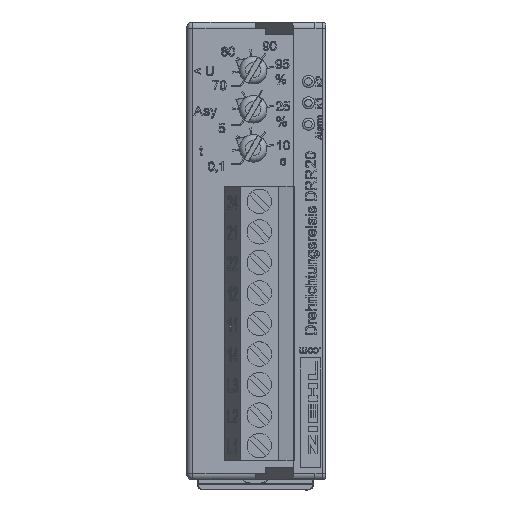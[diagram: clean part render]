
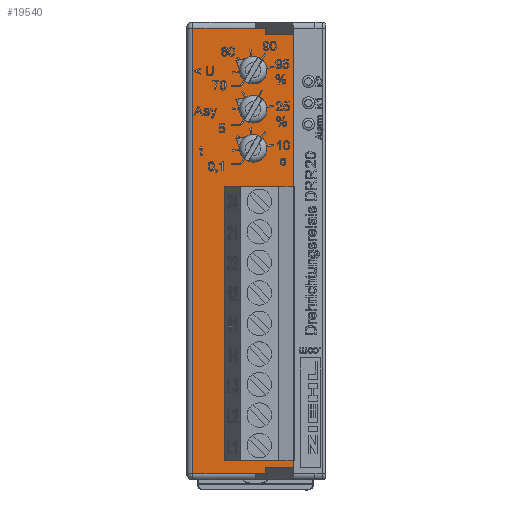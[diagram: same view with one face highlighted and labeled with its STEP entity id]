
A CAD part, left-side view. The second image highlights one B-rep face of the part: STEP entity #19540.
In plain terms, the highlighted planar face has unit normal (-1, 0, 0) as drawn and (1, 0, 0) by its records, which use the part's own axes.
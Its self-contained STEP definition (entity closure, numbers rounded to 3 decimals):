
#1973 = EDGE_CURVE ( 'NONE', #78319, #41618, #56780, .T. ) ;
#3440 = EDGE_CURVE ( 'NONE', #12990, #95544, #101074, .T. ) ;
#3484 = CARTESIAN_POINT ( 'NONE',  ( 30., -14.3, -37.5 ) ) ;
#4008 = ORIENTED_EDGE ( 'NONE', *, *, #92754, .T. ) ;
#5230 = CARTESIAN_POINT ( 'NONE',  ( 30., -14.3, 35.5 ) ) ;
#5678 = CARTESIAN_POINT ( 'NONE',  ( 30., -10.082, -36.5 ) ) ;
#6613 = ORIENTED_EDGE ( 'NONE', *, *, #82807, .F. ) ;
#8086 = LINE ( 'NONE', #53218, #60421 ) ;
#12990 = VERTEX_POINT ( 'NONE', #100267 ) ;
#13637 = DIRECTION ( 'NONE',  ( 0., 1., 0. ) ) ;
#18302 = VERTEX_POINT ( 'NONE', #67462 ) ;
#19540 = ADVANCED_FACE ( 'NONE', ( #67126 ), #62339, .F. ) ;
#20049 = DIRECTION ( 'NONE',  ( 0., 1., 0. ) ) ;
#20434 = EDGE_CURVE ( 'NONE', #73716, #119355, #57639, .T. ) ;
#21032 = ORIENTED_EDGE ( 'NONE', *, *, #61802, .T. ) ;
#21212 = CARTESIAN_POINT ( 'NONE',  ( 30., 1.2, -36.5 ) ) ;
#21290 = ORIENTED_EDGE ( 'NONE', *, *, #25832, .F. ) ;
#24228 = VERTEX_POINT ( 'NONE', #94347 ) ;
#25379 = LINE ( 'NONE', #61920, #126861 ) ;
#25832 = EDGE_CURVE ( 'NONE', #119355, #18302, #8086, .T. ) ;
#27457 = ORIENTED_EDGE ( 'NONE', *, *, #3440, .F. ) ;
#29824 = DIRECTION ( 'NONE',  ( 0., 1., 0. ) ) ;
#31482 = VECTOR ( 'NONE', #34607, 1000. ) ;
#32712 = CARTESIAN_POINT ( 'NONE',  ( 30., 1.2, 37.5 ) ) ;
#33575 = ORIENTED_EDGE ( 'NONE', *, *, #105854, .F. ) ;
#34607 = DIRECTION ( 'NONE',  ( 0., 0., 1. ) ) ;
#34617 = ORIENTED_EDGE ( 'NONE', *, *, #1973, .T. ) ;
#38608 = LINE ( 'NONE', #21212, #87787 ) ;
#41251 = VECTOR ( 'NONE', #29824, 1000. ) ;
#41618 = VERTEX_POINT ( 'NONE', #104256 ) ;
#42622 = DIRECTION ( 'NONE',  ( -1., 0., 0. ) ) ;
#42810 = DIRECTION ( 'NONE',  ( 0., -1., 0. ) ) ;
#43205 = CARTESIAN_POINT ( 'NONE',  ( 30., 0.2, -36.5 ) ) ;
#51094 = CARTESIAN_POINT ( 'NONE',  ( 30., -14.3, -35.5 ) ) ;
#53218 = CARTESIAN_POINT ( 'NONE',  ( 30., -16.3, 35.5 ) ) ;
#56780 = LINE ( 'NONE', #64858, #79896 ) ;
#57639 = LINE ( 'NONE', #73771, #31482 ) ;
#58843 = CARTESIAN_POINT ( 'NONE',  ( 30., -16.3, -35.5 ) ) ;
#59027 = CARTESIAN_POINT ( 'NONE',  ( 30., -16.3, 35.5 ) ) ;
#60421 = VECTOR ( 'NONE', #13637, 1000. ) ;
#60769 = DIRECTION ( 'NONE',  ( 0., 1., 0. ) ) ;
#61758 = VECTOR ( 'NONE', #20049, 1000. ) ;
#61802 = EDGE_CURVE ( 'NONE', #75529, #78319, #38608, .T. ) ;
#61920 = CARTESIAN_POINT ( 'NONE',  ( 30., -16.3, -35.5 ) ) ;
#62339 = PLANE ( 'NONE',  #68936 ) ;
#64858 = CARTESIAN_POINT ( 'NONE',  ( 30., 0.2, 37.5 ) ) ;
#67126 = FACE_OUTER_BOUND ( 'NONE', #124303, .T. ) ;
#67462 = CARTESIAN_POINT ( 'NONE',  ( 30., -14.3, 35.5 ) ) ;
#68067 = LINE ( 'NONE', #81951, #117206 ) ;
#68936 = AXIS2_PLACEMENT_3D ( 'NONE', #32712, #42622, #82180 ) ;
#73716 = VERTEX_POINT ( 'NONE', #58843 ) ;
#73771 = CARTESIAN_POINT ( 'NONE',  ( 30., -16.3, 36.5 ) ) ;
#75529 = VERTEX_POINT ( 'NONE', #5678 ) ;
#78319 = VERTEX_POINT ( 'NONE', #43205 ) ;
#79896 = VECTOR ( 'NONE', #103908, 1000. ) ;
#80975 = CARTESIAN_POINT ( 'NONE',  ( 30., -14.3, 36.5 ) ) ;
#81951 = CARTESIAN_POINT ( 'NONE',  ( 30., 1.2, 36.5 ) ) ;
#82180 = DIRECTION ( 'NONE',  ( 0., 0., 1. ) ) ;
#82807 = EDGE_CURVE ( 'NONE', #84805, #24228, #113990, .T. ) ;
#84805 = VERTEX_POINT ( 'NONE', #80975 ) ;
#87787 = VECTOR ( 'NONE', #60769, 1000. ) ;
#90421 = LINE ( 'NONE', #117478, #41251 ) ;
#92071 = ORIENTED_EDGE ( 'NONE', *, *, #20434, .F. ) ;
#92754 = EDGE_CURVE ( 'NONE', #41618, #24228, #68067, .T. ) ;
#94347 = CARTESIAN_POINT ( 'NONE',  ( 30., -10.082, 36.5 ) ) ;
#95544 = VERTEX_POINT ( 'NONE', #51094 ) ;
#100267 = CARTESIAN_POINT ( 'NONE',  ( 30., -14.3, -36.5 ) ) ;
#100374 = ORIENTED_EDGE ( 'NONE', *, *, #111684, .F. ) ;
#101074 = LINE ( 'NONE', #3484, #127162 ) ;
#101425 = DIRECTION ( 'NONE',  ( 0., -1., 0. ) ) ;
#101487 = DIRECTION ( 'NONE',  ( 0., 0., 1. ) ) ;
#103644 = DIRECTION ( 'NONE',  ( 0., 0., 1. ) ) ;
#103908 = DIRECTION ( 'NONE',  ( 0., 0., 1. ) ) ;
#104256 = CARTESIAN_POINT ( 'NONE',  ( 30., 0.2, 36.5 ) ) ;
#105854 = EDGE_CURVE ( 'NONE', #18302, #84805, #126534, .T. ) ;
#109638 = EDGE_CURVE ( 'NONE', #12990, #75529, #90421, .T. ) ;
#111684 = EDGE_CURVE ( 'NONE', #95544, #73716, #25379, .T. ) ;
#113990 = LINE ( 'NONE', #117581, #61758 ) ;
#117206 = VECTOR ( 'NONE', #42810, 1000. ) ;
#117478 = CARTESIAN_POINT ( 'NONE',  ( 30., -16.3, -36.5 ) ) ;
#117581 = CARTESIAN_POINT ( 'NONE',  ( 30., -16.3, 36.5 ) ) ;
#119355 = VERTEX_POINT ( 'NONE', #59027 ) ;
#120860 = ORIENTED_EDGE ( 'NONE', *, *, #109638, .T. ) ;
#123458 = VECTOR ( 'NONE', #103644, 1000. ) ;
#124303 = EDGE_LOOP ( 'NONE', ( #34617, #4008, #6613, #33575, #21290, #92071, #100374, #27457, #120860, #21032 ) ) ;
#126534 = LINE ( 'NONE', #5230, #123458 ) ;
#126861 = VECTOR ( 'NONE', #101425, 1000. ) ;
#127162 = VECTOR ( 'NONE', #101487, 1000. ) ;
